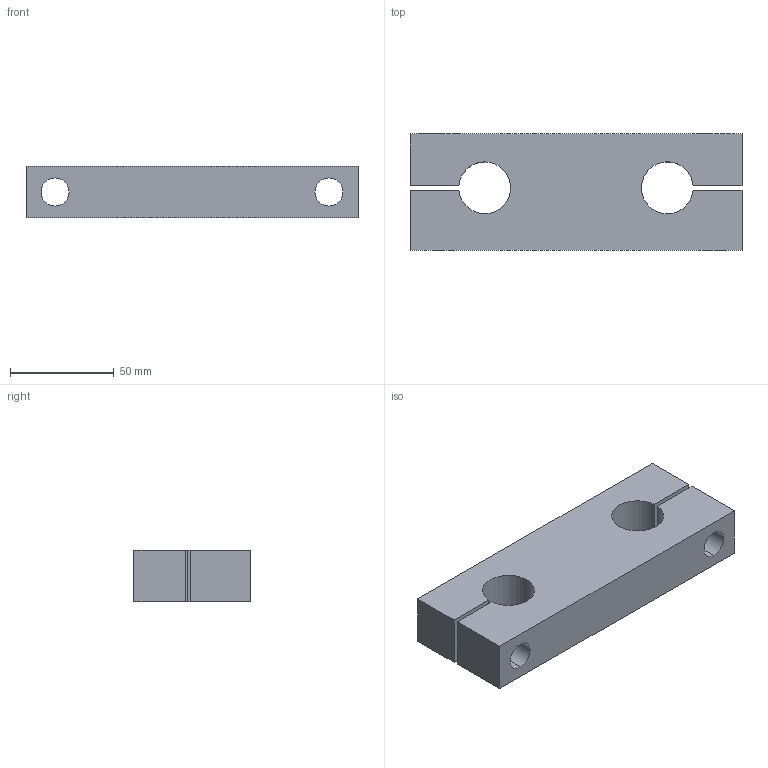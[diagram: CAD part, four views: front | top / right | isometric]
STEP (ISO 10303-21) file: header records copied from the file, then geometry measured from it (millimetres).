
FILE_DESCRIPTION (( 'STEP AP214' ), '1' );
FILE_NAME ('KTA-25.step', '2020-03-04T13:37:57', ( '' ), ( '' ), 'SwSTEP 2.0', 'SolidWorks 2019', '' );
FILE_SCHEMA (( 'AUTOMOTIVE_DESIGN' ));
Length unit declared in the file: millimetre
Products named in the file (1): KTA-25
Bounding box: 160 x 56 x 25 mm (x, y, z)
Volume: 176022.7 mm3; surface area: 36714.9 mm2
Topology: 1 solids, 1 shells, 35 faces, 89 edges, 57 vertices
Faces by surface type: cylinder 17, plane 14, cone 4
Entity records: 1103 total; most frequent: DIRECTION 195, CARTESIAN_POINT 180, ORIENTED_EDGE 174, EDGE_CURVE 87, AXIS2_PLACEMENT_3D 72, VERTEX_POINT 57, LINE 51, VECTOR 51
